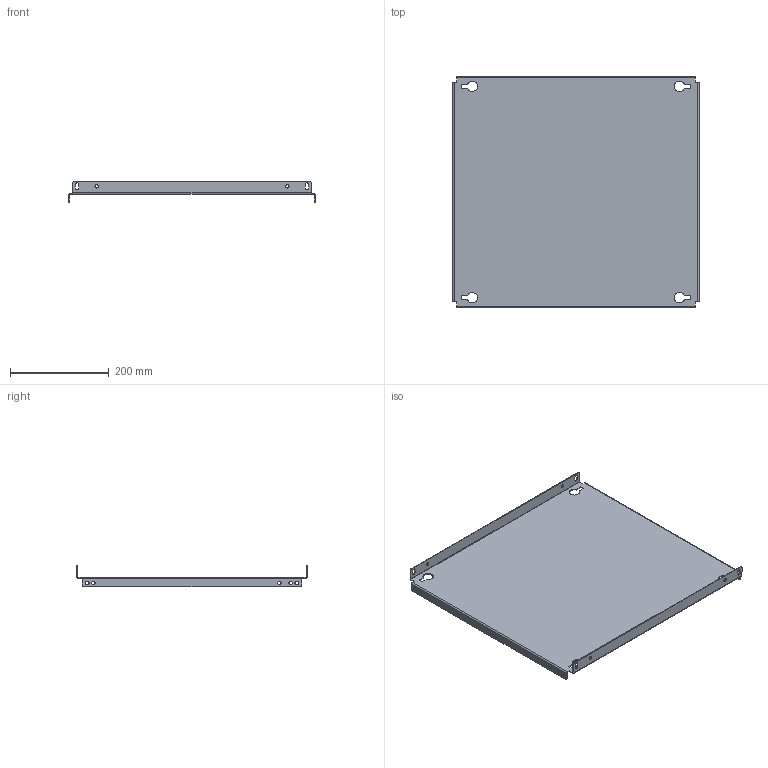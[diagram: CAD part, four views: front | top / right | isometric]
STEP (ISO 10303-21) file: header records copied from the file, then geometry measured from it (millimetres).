
FILE_DESCRIPTION (( 'STEP AP203' ), '1' );
FILE_NAME ('R5PPS5006.STEP', '2021-12-20T06:52:34', ( '' ), ( '' ), 'SwSTEP 2.0', 'SolidWorks 2020', '' );
FILE_SCHEMA (( 'CONFIG_CONTROL_DESIGN' ));
Length unit declared in the file: millimetre
Products named in the file (1): R5PPS5006
Bounding box: 500 x 469 x 43 mm (x, y, z)
Volume: 537035.2 mm3; surface area: 542826.1 mm2
Topology: 1 solids, 1 shells, 136 faces, 370 edges, 236 vertices
Faces by surface type: cylinder 78, plane 58
Entity records: 4479 total; most frequent: DIRECTION 800, CARTESIAN_POINT 743, ORIENTED_EDGE 740, EDGE_CURVE 370, AXIS2_PLACEMENT_3D 293, VERTEX_POINT 236, LINE 214, VECTOR 214
